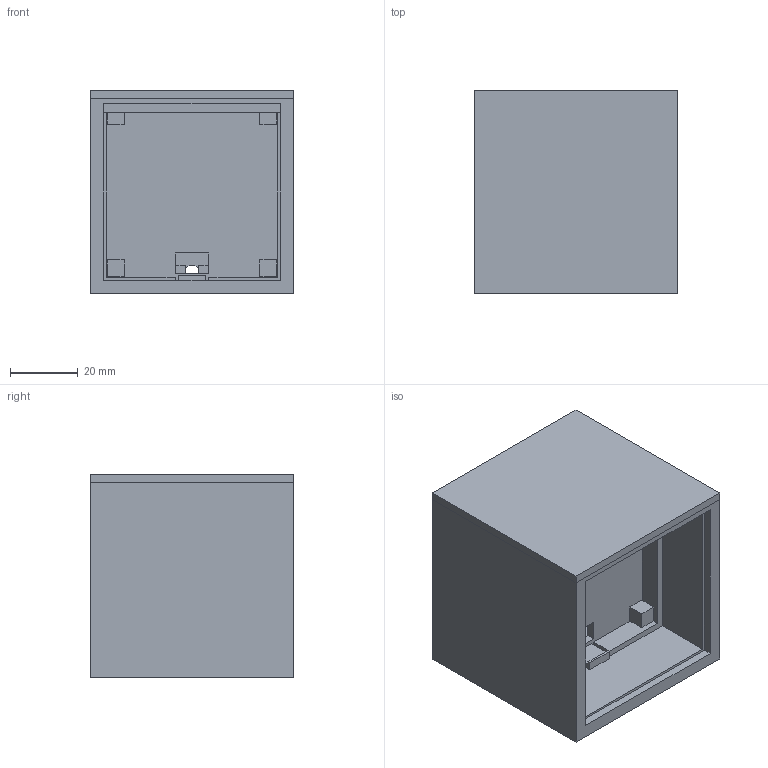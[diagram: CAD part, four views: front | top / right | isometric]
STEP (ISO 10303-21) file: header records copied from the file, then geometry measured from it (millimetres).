
FILE_DESCRIPTION(/* description */ (''),/* implementation_level */ '2;1');
FILE_NAME(/* name */ 'led_cube.step',/* time_stamp */ '2026-10-16T17:35:00+02:00',/* author */ (''),/* organization */ (''),/* preprocessor_version */ 'ST-DEVELOPER v20.2',/* originating_system */ 'Autodesk Translation Framework v15.15.0.0',/* authorisation */ '');
FILE_SCHEMA (('AUTOMOTIVE_DESIGN { 1 0 10303 214 3 1 1 }'));
Length unit declared in the file: millimetre
Products named in the file (1): 2026-10-16-17-34-12-747
Bounding box: 60 x 60 x 60 mm (x, y, z)
Volume: 51584.9 mm3; surface area: 47554.4 mm2
Topology: 2 solids, 2 shells, 161 faces, 413 edges, 272 vertices
Faces by surface type: plane 160, cylinder 1
Full cylindrical faces by diameter (mm): 5 x1
Entity records: 4817 total; most frequent: CARTESIAN_POINT 847, ORIENTED_EDGE 826, DIRECTION 739, EDGE_CURVE 413, LINE 411, VECTOR 411, VERTEX_POINT 272, EDGE_LOOP 185
